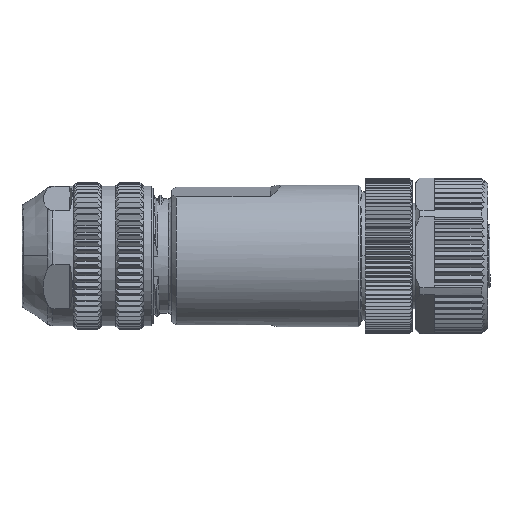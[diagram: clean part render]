
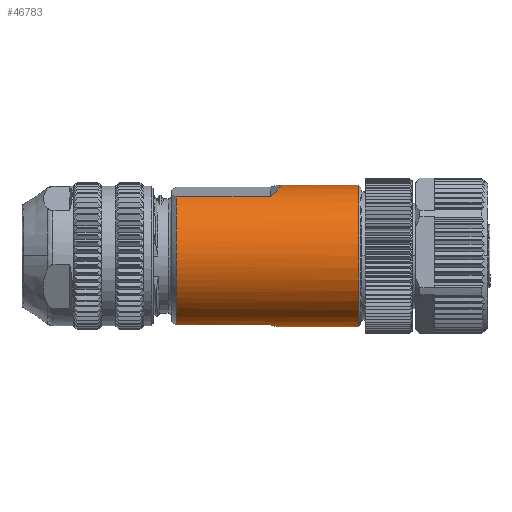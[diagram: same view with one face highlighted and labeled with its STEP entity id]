
A CAD part, top view. The second image highlights one B-rep face of the part: STEP entity #46783.
In plain terms, the highlighted cylindrical face has radius 9.06 mm (diameter 18.12 mm), a partial arc.
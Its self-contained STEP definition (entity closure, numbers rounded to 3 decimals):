
#193 = VERTEX_POINT ( 'NONE', #51732 ) ;
#677 = B_SPLINE_CURVE_WITH_KNOTS ( 'NONE', 3,
 ( #9907, #38797, #38262, #46740, #50842, #5993, #42058, #17635, #46204, #21681, #25788, #1340, #9543, #38088, #13854, #29903, #34019, #13665, #42227, #17797, #46393, #30273, #42411, #25964, #1536, #30083, #17977, #46561, #22050, #50655 ),
 .UNSPECIFIED., .F., .F.,
 ( 4, 2, 2, 2, 2, 2, 2, 2, 2, 2, 2, 2, 2, 2, 4 ),
 ( 0., 0.003, 0.005, 0.007, 0.008, 0.009, 0.011, 0.012, 0.013, 0.015, 0.015, 0.016, 0.017, 0.019, 0.021 ),
 .UNSPECIFIED. ) ;
#1340 = CARTESIAN_POINT ( 'NONE',  ( -17.7, -0.785, 9.037 ) ) ;
#1365 = EDGE_CURVE ( 'NONE', #38843, #9320, #7817, .T. ) ;
#1536 = CARTESIAN_POINT ( 'NONE',  ( -17.7, -6.907, 5.88 ) ) ;
#3644 = ORIENTED_EDGE ( 'NONE', *, *, #1365, .F. ) ;
#4038 = VECTOR ( 'NONE', #49207, 1000. ) ;
#4926 = FACE_OUTER_BOUND ( 'NONE', #21855, .T. ) ;
#5803 = VERTEX_POINT ( 'NONE', #24650 ) ;
#5993 = CARTESIAN_POINT ( 'NONE',  ( -17.7, 3.131, 8.513 ) ) ;
#6996 = DIRECTION ( 'NONE',  ( -1., 0., 0. ) ) ;
#7817 = LINE ( 'NONE', #20789, #4038 ) ;
#7853 =( BOUNDED_CURVE ( )  B_SPLINE_CURVE ( 3, ( #36245, #39984, #11795, #11260 ),
 .UNSPECIFIED., .F., .F. ) 
 B_SPLINE_CURVE_WITH_KNOTS ( ( 4, 4 ),
 ( 2.74, 2.958 ),
 .UNSPECIFIED. ) 
 CURVE ( )  GEOMETRIC_REPRESENTATION_ITEM ( )  RATIONAL_B_SPLINE_CURVE ( ( 1., 0.996, 0.996, 1. ) ) 
 REPRESENTATION_ITEM ( '' )  );
#8013 = DIRECTION ( 'NONE',  ( -1., 0., 0. ) ) ;
#9320 = VERTEX_POINT ( 'NONE', #28049 ) ;
#9543 = CARTESIAN_POINT ( 'NONE',  ( -17.7, -1.222, 8.988 ) ) ;
#9907 = CARTESIAN_POINT ( 'NONE',  ( -17.7, 7.556, 5. ) ) ;
#11260 = CARTESIAN_POINT ( 'NONE',  ( -4.672, -9.06, 0. ) ) ;
#11795 = CARTESIAN_POINT ( 'NONE',  ( -4.88, -9.06, 0.66 ) ) ;
#12141 = LINE ( 'NONE', #51542, #40894 ) ;
#12939 = CARTESIAN_POINT ( 'NONE',  ( -17.7, 7.556, 5. ) ) ;
#13665 = CARTESIAN_POINT ( 'NONE',  ( -17.7, -4.543, 7.851 ) ) ;
#13854 = CARTESIAN_POINT ( 'NONE',  ( -17.7, -2.514, 8.716 ) ) ;
#15620 = VERTEX_POINT ( 'NONE', #12939 ) ;
#16263 = CARTESIAN_POINT ( 'NONE',  ( -5.656, 7.556, 5. ) ) ;
#17635 = CARTESIAN_POINT ( 'NONE',  ( -17.7, 1.855, 8.879 ) ) ;
#17797 = CARTESIAN_POINT ( 'NONE',  ( -17.7, -5.458, 7.234 ) ) ;
#17977 = CARTESIAN_POINT ( 'NONE',  ( -17.7, -7.692, 4.807 ) ) ;
#18111 = VERTEX_POINT ( 'NONE', #28265 ) ;
#19217 = DIRECTION ( 'NONE',  ( 1., 0., 0. ) ) ;
#19429 = CARTESIAN_POINT ( 'NONE',  ( -17.7, -8.845, 1.961 ) ) ;
#19594 = LINE ( 'NONE', #22522, #36797 ) ;
#19614 = ORIENTED_EDGE ( 'NONE', *, *, #41948, .T. ) ;
#20789 = CARTESIAN_POINT ( 'NONE',  ( -17.1, -9.06, 0. ) ) ;
#20889 = DIRECTION ( 'NONE',  ( 0., -1., 0. ) ) ;
#21681 = CARTESIAN_POINT ( 'NONE',  ( -17.7, 0.547, 9.054 ) ) ;
#21855 = EDGE_LOOP ( 'NONE', ( #26256, #19614, #25022, #40074, #47463, #26314, #38476, #3644 ) ) ;
#22050 = CARTESIAN_POINT ( 'NONE',  ( -17.7, -8.652, 2.831 ) ) ;
#22522 = CARTESIAN_POINT ( 'NONE',  ( -17.1, 9.06, 0. ) ) ;
#24650 = CARTESIAN_POINT ( 'NONE',  ( -5.656, 7.556, 5. ) ) ;
#25022 = ORIENTED_EDGE ( 'NONE', *, *, #52462, .T. ) ;
#25037 = EDGE_CURVE ( 'NONE', #38843, #193, #31030, .T. ) ;
#25788 = CARTESIAN_POINT ( 'NONE',  ( -17.7, 0.099, 9.07 ) ) ;
#25964 = CARTESIAN_POINT ( 'NONE',  ( -17.7, -6.614, 6.207 ) ) ;
#26256 = ORIENTED_EDGE ( 'NONE', *, *, #25037, .T. ) ;
#26314 = ORIENTED_EDGE ( 'NONE', *, *, #37308, .T. ) ;
#28027 = CARTESIAN_POINT ( 'NONE',  ( -5.656, -8.845, 1.961 ) ) ;
#28049 = CARTESIAN_POINT ( 'NONE',  ( -4.672, -9.06, 0. ) ) ;
#28265 = CARTESIAN_POINT ( 'NONE',  ( -4.672, 9.06, 0. ) ) ;
#29132 = VECTOR ( 'NONE', #52849, 1000. ) ;
#29903 = CARTESIAN_POINT ( 'NONE',  ( -17.7, -3.356, 8.427 ) ) ;
#30083 = CARTESIAN_POINT ( 'NONE',  ( -17.7, -7.445, 5.181 ) ) ;
#30273 = CARTESIAN_POINT ( 'NONE',  ( -17.7, -5.976, 6.814 ) ) ;
#30576 = DIRECTION ( 'NONE',  ( -1., 0., 0. ) ) ;
#31030 = CIRCLE ( 'NONE', #50965, 9.06 ) ;
#31558 = AXIS2_PLACEMENT_3D ( 'NONE', #43638, #6996, #43452 ) ;
#32441 = CARTESIAN_POINT ( 'NONE',  ( -17.1, 7.556, 5. ) ) ;
#34019 = CARTESIAN_POINT ( 'NONE',  ( -17.7, -3.762, 8.254 ) ) ;
#34293 = EDGE_CURVE ( 'NONE', #45306, #9320, #7853, .T. ) ;
#36245 = CARTESIAN_POINT ( 'NONE',  ( -5.656, -8.845, 1.961 ) ) ;
#36744 = CARTESIAN_POINT ( 'NONE',  ( -4.672, 9.06, 0. ) ) ;
#36797 = VECTOR ( 'NONE', #30576, 1000. ) ;
#37294 = CARTESIAN_POINT ( 'NONE',  ( 5.7, 0., 0. ) ) ;
#37308 = EDGE_CURVE ( 'NONE', #52999, #45306, #12141, .T. ) ;
#38088 = CARTESIAN_POINT ( 'NONE',  ( -17.7, -2.086, 8.828 ) ) ;
#38262 = CARTESIAN_POINT ( 'NONE',  ( -17.7, 6.475, 6.399 ) ) ;
#38476 = ORIENTED_EDGE ( 'NONE', *, *, #34293, .T. ) ;
#38797 = CARTESIAN_POINT ( 'NONE',  ( -17.7, 7.064, 5.743 ) ) ;
#38843 = VERTEX_POINT ( 'NONE', #46812 ) ;
#39483 = EDGE_CURVE ( 'NONE', #15620, #52999, #677, .T. ) ;
#39971 = LINE ( 'NONE', #32441, #29132 ) ;
#39984 = CARTESIAN_POINT ( 'NONE',  ( -5.21, -8.988, 1.316 ) ) ;
#40074 = ORIENTED_EDGE ( 'NONE', *, *, #41729, .T. ) ;
#40673 = CARTESIAN_POINT ( 'NONE',  ( -4.107, 9.06, 1.791 ) ) ;
#40894 = VECTOR ( 'NONE', #19217, 1000. ) ;
#41277 =( BOUNDED_CURVE ( )  B_SPLINE_CURVE ( 3, ( #36744, #40673, #48944, #16263 ),
 .UNSPECIFIED., .F., .F. ) 
 B_SPLINE_CURVE_WITH_KNOTS ( ( 4, 4 ),
 ( 2.958, 3.543 ),
 .UNSPECIFIED. ) 
 CURVE ( )  GEOMETRIC_REPRESENTATION_ITEM ( )  RATIONAL_B_SPLINE_CURVE ( ( 1., 0.972, 0.972, 1. ) ) 
 REPRESENTATION_ITEM ( '' )  );
#41729 = EDGE_CURVE ( 'NONE', #5803, #15620, #39971, .T. ) ;
#41948 = EDGE_CURVE ( 'NONE', #193, #18111, #19594, .T. ) ;
#42058 = CARTESIAN_POINT ( 'NONE',  ( -17.7, 2.707, 8.657 ) ) ;
#42227 = CARTESIAN_POINT ( 'NONE',  ( -17.7, -4.918, 7.622 ) ) ;
#42411 = CARTESIAN_POINT ( 'NONE',  ( -17.7, -6.14, 6.666 ) ) ;
#43452 = DIRECTION ( 'NONE',  ( 0., -1., 0. ) ) ;
#43638 = CARTESIAN_POINT ( 'NONE',  ( -17.1, 0., 0. ) ) ;
#45306 = VERTEX_POINT ( 'NONE', #28027 ) ;
#46204 = CARTESIAN_POINT ( 'NONE',  ( -17.7, 1.423, 8.958 ) ) ;
#46393 = CARTESIAN_POINT ( 'NONE',  ( -17.7, -5.635, 7.098 ) ) ;
#46561 = CARTESIAN_POINT ( 'NONE',  ( -17.7, -8.339, 3.651 ) ) ;
#46740 = CARTESIAN_POINT ( 'NONE',  ( -17.7, 5.105, 7.538 ) ) ;
#46783 = ADVANCED_FACE ( 'NONE', ( #4926 ), #48297, .T. ) ;
#46812 = CARTESIAN_POINT ( 'NONE',  ( 5.7, -9.06, 0. ) ) ;
#47463 = ORIENTED_EDGE ( 'NONE', *, *, #39483, .T. ) ;
#48297 = CYLINDRICAL_SURFACE ( 'NONE', #31558, 9.06 ) ;
#48944 = CARTESIAN_POINT ( 'NONE',  ( -4.444, 8.544, 3.506 ) ) ;
#49207 = DIRECTION ( 'NONE',  ( -1., 0., 0. ) ) ;
#50655 = CARTESIAN_POINT ( 'NONE',  ( -17.7, -8.845, 1.961 ) ) ;
#50842 = CARTESIAN_POINT ( 'NONE',  ( -17.7, 4.353, 7.995 ) ) ;
#50965 = AXIS2_PLACEMENT_3D ( 'NONE', #37294, #8013, #20889 ) ;
#51542 = CARTESIAN_POINT ( 'NONE',  ( -17.1, -8.845, 1.961 ) ) ;
#51732 = CARTESIAN_POINT ( 'NONE',  ( 5.7, 9.06, 0. ) ) ;
#52462 = EDGE_CURVE ( 'NONE', #18111, #5803, #41277, .T. ) ;
#52849 = DIRECTION ( 'NONE',  ( -1., 0., 0. ) ) ;
#52999 = VERTEX_POINT ( 'NONE', #19429 ) ;
